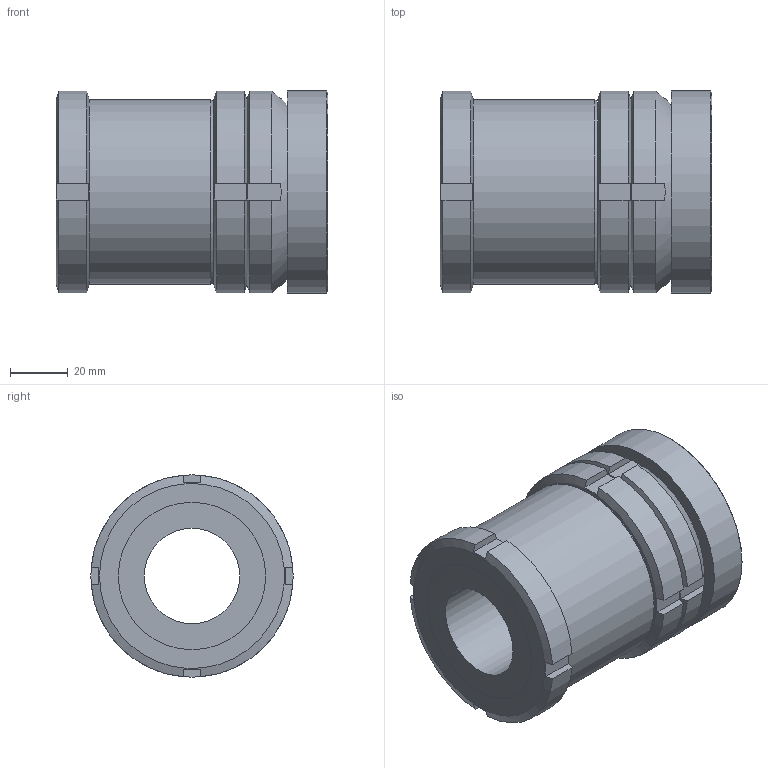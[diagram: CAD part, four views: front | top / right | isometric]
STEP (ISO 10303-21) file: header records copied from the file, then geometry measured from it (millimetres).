
FILE_DESCRIPTION( ( 'STEP AP203' ), '1' );
FILE_NAME( 'C:/Temp/Ganter_Step_05_03_2020/data/3_2/gn350_5/gn350_5_st/Levelling set GN 350.5-70-33-94-ST (0-0).stp', '2020-03-13T05:28:39', ( 'License CC BY-ND 4.0' ), ( 'CADENAS' ), ' ', 'PARTsolutions', ' ' );
FILE_SCHEMA( ( 'CONFIG_CONTROL_DESIGN' ) );
Length unit declared in the file: millimetre
Products named in the file (5): Levelling set GN 350.5-70-33-94-ST (0-0); _Levelling set GN 350.5-70-33-94-ST-G; _Levelling set GN 350.5-70-33-94-ST-K; _Levelling set GN 350.5-70-33-94-ST-P(0); _Levelling set GN 350.5-70-33-61-ST-KM
Assembly tree (4 placements, depth 2):
  Levelling set GN 350.5-70-33-94-ST (0-0)
    _Levelling set GN 350.5-70-33-94-ST-G
    _Levelling set GN 350.5-70-33-94-ST-K
    _Levelling set GN 350.5-70-33-94-ST-P(0)
    _Levelling set GN 350.5-70-33-61-ST-KM
Bounding box: 94 x 70 x 70 mm (x, y, z)
Volume: 245336.3 mm3; surface area: 70707.4 mm2
Topology: 4 solids, 4 shells, 85 faces, 211 edges, 140 vertices
Faces by surface type: plane 50, cylinder 24, cone 9, sphere 2
Full cylindrical faces by diameter (mm): 33 x1, 40 x1, 43.529 x1, 44.5 x1, 48.376 x1, 48.917 x1, 49 x1, 50 x1, 51 x2, 64 x1, 70 x1
Entity records: 2696 total; most frequent: CARTESIAN_POINT 698, DIRECTION 368, ORIENTED_EDGE 356, EDGE_CURVE 178, AXIS2_PLACEMENT_3D 160, VERTEX_POINT 130, EDGE_LOOP 122, FACE_OUTER_BOUND 99
